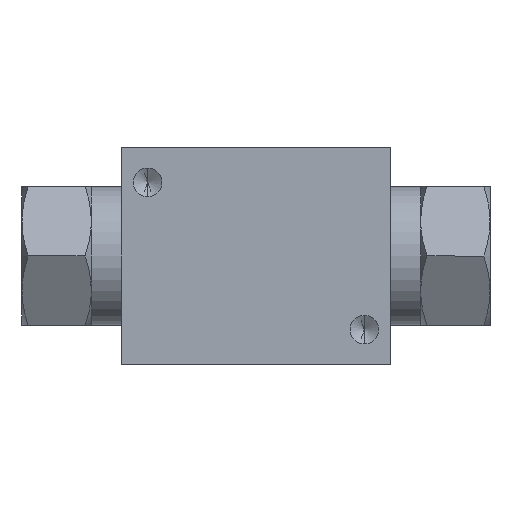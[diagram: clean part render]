
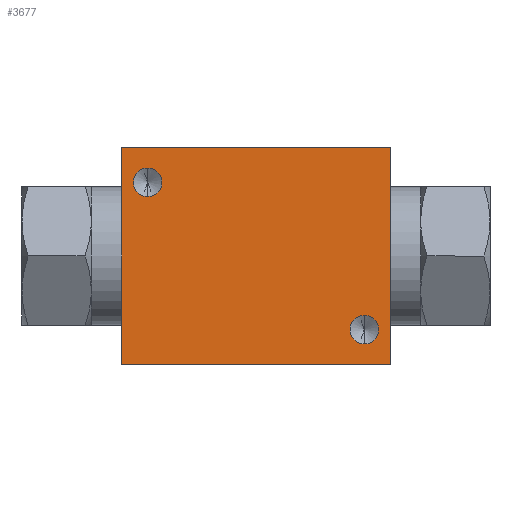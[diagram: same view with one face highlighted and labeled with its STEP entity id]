
A CAD part, front view. The second image highlights one B-rep face of the part: STEP entity #3677.
In plain terms, the highlighted planar face has unit normal (0, -1, 0).
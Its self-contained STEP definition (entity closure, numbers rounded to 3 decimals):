
#274 = EDGE_LOOP ( 'NONE', ( #2752, #2753 ) ) ;
#287 = EDGE_LOOP ( 'NONE', ( #2750, #2751 ) ) ;
#294 = EDGE_LOOP ( 'NONE', ( #2754, #2755, #2756, #2757 ) ) ;
#701 = EDGE_CURVE ( 'NONE', #5992, #5994, #4491, .T. ) ;
#2750 = ORIENTED_EDGE ( 'NONE', *, *, #3527, .F. ) ;
#2751 = ORIENTED_EDGE ( 'NONE', *, *, #701, .F. ) ;
#2752 = ORIENTED_EDGE ( 'NONE', *, *, #3528, .F. ) ;
#2753 = ORIENTED_EDGE ( 'NONE', *, *, #5413, .F. ) ;
#2754 = ORIENTED_EDGE ( 'NONE', *, *, #3450, .T. ) ;
#2755 = ORIENTED_EDGE ( 'NONE', *, *, #3530, .F. ) ;
#2756 = ORIENTED_EDGE ( 'NONE', *, *, #3531, .F. ) ;
#2757 = ORIENTED_EDGE ( 'NONE', *, *, #3816, .T. ) ;
#3450 = EDGE_CURVE ( 'NONE', #5488, #5665, #11375, .T. ) ;
#3527 = EDGE_CURVE ( 'NONE', #5994, #5992, #10202, .T. ) ;
#3528 = EDGE_CURVE ( 'NONE', #6022, #6019, #10204, .T. ) ;
#3530 = EDGE_CURVE ( 'NONE', #5687, #5665, #11690, .T. ) ;
#3531 = EDGE_CURVE ( 'NONE', #5483, #5687, #11695, .T. ) ;
#3677 = ADVANCED_FACE ( 'NONE', ( #14249, #14234, #14252 ), #14253, .F. ) ;
#3816 = EDGE_CURVE ( 'NONE', #5483, #5488, #14802, .T. ) ;
#4234 = CARTESIAN_POINT ( 'NONE',  ( -12.5, -12.5, 8.5 ) ) ;
#4235 = DIRECTION ( 'NONE',  ( 0., -1., 0. ) ) ;
#4236 = DIRECTION ( 'NONE',  ( 0., 0., -1. ) ) ;
#4491 = CIRCLE ( 'NONE', #4495, 1.65 ) ;
#4495 = AXIS2_PLACEMENT_3D ( 'NONE', #4234, #4235, #4236 ) ;
#5413 = EDGE_CURVE ( 'NONE', #6019, #6022, #17232, .T. ) ;
#5483 = VERTEX_POINT ( 'NONE', #17996 ) ;
#5488 = VERTEX_POINT ( 'NONE', #18001 ) ;
#5665 = VERTEX_POINT ( 'NONE', #18178 ) ;
#5687 = VERTEX_POINT ( 'NONE', #18200 ) ;
#5992 = VERTEX_POINT ( 'NONE', #18500 ) ;
#5994 = VERTEX_POINT ( 'NONE', #18501 ) ;
#6019 = VERTEX_POINT ( 'NONE', #18518 ) ;
#6022 = VERTEX_POINT ( 'NONE', #18520 ) ;
#10169 = VECTOR ( 'NONE', #11403, 1000. ) ;
#10202 = CIRCLE ( 'NONE', #10206, 1.65 ) ;
#10204 = CIRCLE ( 'NONE', #10208, 1.65 ) ;
#10205 = VECTOR ( 'NONE', #11694, 1000. ) ;
#10206 = AXIS2_PLACEMENT_3D ( 'NONE', #11687, #11688, #11689 ) ;
#10208 = AXIS2_PLACEMENT_3D ( 'NONE', #11691, #11692, #11693 ) ;
#10209 = VECTOR ( 'NONE', #11697, 1000. ) ;
#11375 = LINE ( 'NONE', #11398, #10169 ) ;
#11398 = CARTESIAN_POINT ( 'NONE',  ( -15.5, -12.5, 12.5 ) ) ;
#11403 = DIRECTION ( 'NONE',  ( 0., 0., -1. ) ) ;
#11686 = CARTESIAN_POINT ( 'NONE',  ( 15.5, -12.5, -12.5 ) ) ;
#11687 = CARTESIAN_POINT ( 'NONE',  ( -12.5, -12.5, 8.5 ) ) ;
#11688 = DIRECTION ( 'NONE',  ( 0., -1., 0. ) ) ;
#11689 = DIRECTION ( 'NONE',  ( 0., 0., -1. ) ) ;
#11690 = LINE ( 'NONE', #11686, #10205 ) ;
#11691 = CARTESIAN_POINT ( 'NONE',  ( 12.5, -12.5, -8.5 ) ) ;
#11692 = DIRECTION ( 'NONE',  ( 0., -1., 0. ) ) ;
#11693 = DIRECTION ( 'NONE',  ( 0., 0., -1. ) ) ;
#11694 = DIRECTION ( 'NONE',  ( -1., 0., 0. ) ) ;
#11695 = LINE ( 'NONE', #11696, #10209 ) ;
#11696 = CARTESIAN_POINT ( 'NONE',  ( 15.5, -12.5, 12.5 ) ) ;
#11697 = DIRECTION ( 'NONE',  ( 0., 0., -1. ) ) ;
#13496 = AXIS2_PLACEMENT_3D ( 'NONE', #14261, #14262, #14263 ) ;
#13570 = VECTOR ( 'NONE', #14813, 1000. ) ;
#14234 = FACE_BOUND ( 'NONE', #274, .T. ) ;
#14249 = FACE_BOUND ( 'NONE', #287, .T. ) ;
#14252 = FACE_OUTER_BOUND ( 'NONE', #294, .T. ) ;
#14253 = PLANE ( 'NONE',  #13496 ) ;
#14261 = CARTESIAN_POINT ( 'NONE',  ( 15.5, -12.5, 12.5 ) ) ;
#14262 = DIRECTION ( 'NONE',  ( 0., 1., 0. ) ) ;
#14263 = DIRECTION ( 'NONE',  ( 0., 0., 1. ) ) ;
#14802 = LINE ( 'NONE', #14812, #13570 ) ;
#14812 = CARTESIAN_POINT ( 'NONE',  ( 15.5, -12.5, 12.5 ) ) ;
#14813 = DIRECTION ( 'NONE',  ( -1., 0., 0. ) ) ;
#17232 = CIRCLE ( 'NONE', #17236, 1.65 ) ;
#17236 = AXIS2_PLACEMENT_3D ( 'NONE', #17878, #17879, #17880 ) ;
#17878 = CARTESIAN_POINT ( 'NONE',  ( 12.5, -12.5, -8.5 ) ) ;
#17879 = DIRECTION ( 'NONE',  ( 0., -1., 0. ) ) ;
#17880 = DIRECTION ( 'NONE',  ( 0., 0., -1. ) ) ;
#17996 = CARTESIAN_POINT ( 'NONE',  ( 15.5, -12.5, 12.5 ) ) ;
#18001 = CARTESIAN_POINT ( 'NONE',  ( -15.5, -12.5, 12.5 ) ) ;
#18178 = CARTESIAN_POINT ( 'NONE',  ( -15.5, -12.5, -12.5 ) ) ;
#18200 = CARTESIAN_POINT ( 'NONE',  ( 15.5, -12.5, -12.5 ) ) ;
#18500 = CARTESIAN_POINT ( 'NONE',  ( -12.5, -12.5, 10.15 ) ) ;
#18501 = CARTESIAN_POINT ( 'NONE',  ( -12.5, -12.5, 6.85 ) ) ;
#18518 = CARTESIAN_POINT ( 'NONE',  ( 12.5, -12.5, -6.85 ) ) ;
#18520 = CARTESIAN_POINT ( 'NONE',  ( 12.5, -12.5, -10.15 ) ) ;
